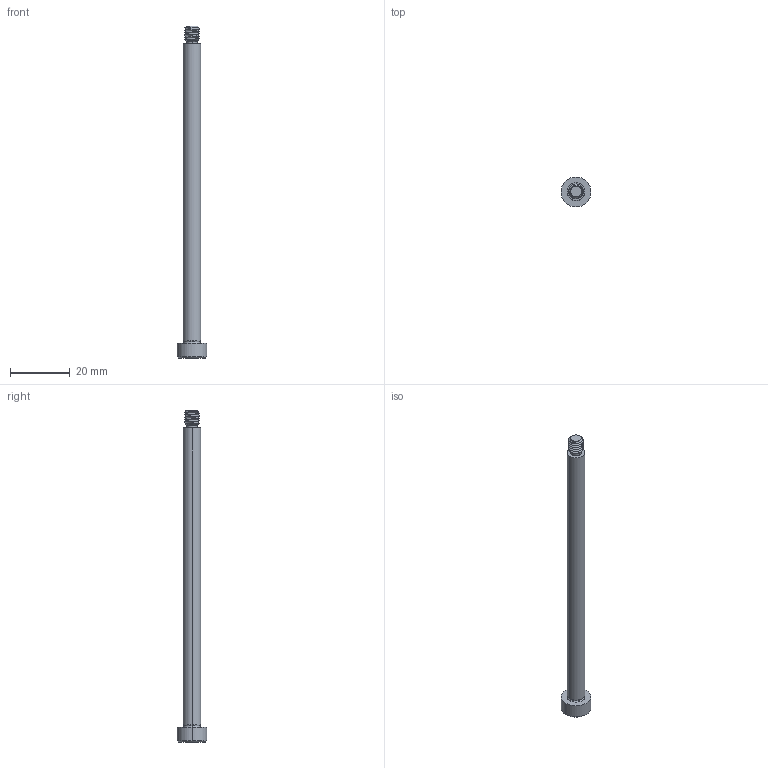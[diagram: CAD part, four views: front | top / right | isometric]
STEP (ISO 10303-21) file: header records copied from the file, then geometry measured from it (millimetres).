
FILE_DESCRIPTION (( 'STEP AP203' ), '1' );
FILE_NAME ('P0130.060-100-B2.step', '2021-11-09T21:32:13', ( '' ), ( '' ), 'SwSTEP 2.0', 'SolidWorks 2019', '' );
FILE_SCHEMA (( 'CONFIG_CONTROL_DESIGN' ));
Length unit declared in the file: millimetre
Products named in the file (1): P0130.060-100-B2
Bounding box: 10 x 10 x 111 mm (x, y, z)
Volume: 3274 mm3; surface area: 2372.5 mm2
Topology: 1 solids, 1 shells, 53 faces, 121 edges, 71 vertices
Faces by surface type: cylinder 17, plane 16, cone 14, torus 4, bspline 2
Entity records: 2367 total; most frequent: CARTESIAN_POINT 1186, ORIENTED_EDGE 238, DIRECTION 226, EDGE_CURVE 119, AXIS2_PLACEMENT_3D 92, VERTEX_POINT 71, EDGE_LOOP 56, ADVANCED_FACE 53
